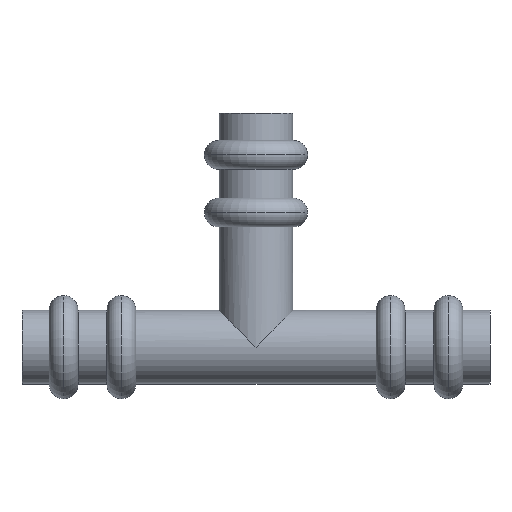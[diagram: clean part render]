
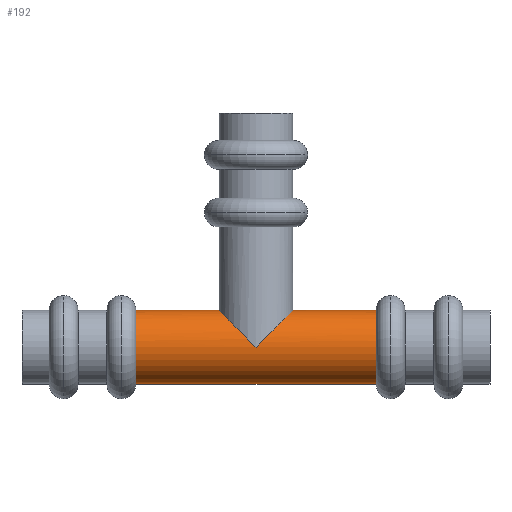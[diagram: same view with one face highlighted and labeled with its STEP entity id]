
A CAD part, front view. The second image highlights one B-rep face of the part: STEP entity #192.
In plain terms, the highlighted cylindrical face has radius 5.75 mm (diameter 11.5 mm), a partial arc.
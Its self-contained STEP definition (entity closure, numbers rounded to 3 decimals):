
#192=ADVANCED_FACE('',(#472),#473,.T.);
#472=FACE_OUTER_BOUND('',#864,.T.);
#473=CYLINDRICAL_SURFACE('',#865,5.75);
#864=EDGE_LOOP('',(#1370,#1371,#1372,#1373,#1374,#1375,#1376));
#865=AXIS2_PLACEMENT_3D('',#1377,#1378,#1379);
#1370=ORIENTED_EDGE('',*,*,#2243,.F.);
#1371=ORIENTED_EDGE('',*,*,#2244,.F.);
#1372=ORIENTED_EDGE('',*,*,#2245,.F.);
#1373=ORIENTED_EDGE('',*,*,#2246,.T.);
#1374=ORIENTED_EDGE('',*,*,#2247,.T.);
#1375=ORIENTED_EDGE('',*,*,#2248,.F.);
#1376=ORIENTED_EDGE('',*,*,#2249,.F.);
#1377=CARTESIAN_POINT('',(31.5,0.0,0.));
#1378=DIRECTION('',(-1.0,0.0,0.0));
#1379=DIRECTION('',(0.0,0.0,-1.0));
#2243=EDGE_CURVE('',#2657,#2658,#2659,.T.);
#2244=EDGE_CURVE('',#2660,#2657,#2661,.T.);
#2245=EDGE_CURVE('',#2662,#2660,#2663,.T.);
#2246=EDGE_CURVE('',#2662,#2664,#2665,.T.);
#2247=EDGE_CURVE('',#2664,#2666,#2667,.T.);
#2248=EDGE_CURVE('',#2668,#2666,#2669,.T.);
#2249=EDGE_CURVE('',#2658,#2668,#2670,.T.);
#2657=VERTEX_POINT('',#3175);
#2658=VERTEX_POINT('',#3176);
#2659=LINE('',#3177,#3178);
#2660=VERTEX_POINT('',#3179);
#2661=CIRCLE('',#3180,5.75);
#2662=VERTEX_POINT('',#3181);
#2663=LINE('',#3182,#3183);
#2664=VERTEX_POINT('',#3184);
#2665=ELLIPSE('',#3185,8.132,5.75);
#2666=VERTEX_POINT('',#3186);
#2667=ELLIPSE('',#3187,8.132,5.75);
#2668=VERTEX_POINT('',#3188);
#2669=LINE('',#3189,#3190);
#2670=CIRCLE('',#3191,5.75);
#3175=CARTESIAN_POINT('',(55.25,0.,-5.75));
#3176=CARTESIAN_POINT('',(17.75,0.,-5.75));
#3177=CARTESIAN_POINT('',(31.5,0.,-5.75));
#3178=VECTOR('',#3810,1.0);
#3179=CARTESIAN_POINT('',(55.25,0.,5.75));
#3180=AXIS2_PLACEMENT_3D('',#3811,#3812,#3813);
#3181=CARTESIAN_POINT('',(42.25,0.,5.75));
#3182=CARTESIAN_POINT('',(31.5,0.,5.75));
#3183=VECTOR('',#3814,1.0);
#3184=CARTESIAN_POINT('',(36.5,-5.75,0.0));
#3185=AXIS2_PLACEMENT_3D('',#3815,#3816,#3817);
#3186=CARTESIAN_POINT('',(30.75,0.,5.75));
#3187=AXIS2_PLACEMENT_3D('',#3818,#3819,#3820);
#3188=CARTESIAN_POINT('',(17.75,0.,5.75));
#3189=CARTESIAN_POINT('',(31.5,0.,5.75));
#3190=VECTOR('',#3821,1.0);
#3191=AXIS2_PLACEMENT_3D('',#3822,#3823,#3824);
#3810=DIRECTION('',(-1.0,0.0,0.0));
#3811=CARTESIAN_POINT('',(55.25,0.0,0.));
#3812=DIRECTION('',(1.0,0.0,-0.0));
#3813=DIRECTION('',(0.0,0.0,1.0));
#3814=DIRECTION('',(1.0,-0.0,-0.0));
#3815=CARTESIAN_POINT('',(36.5,0.0,0.));
#3816=DIRECTION('',(0.707,0.0,-0.707));
#3817=DIRECTION('',(0.707,0.0,0.707));
#3818=CARTESIAN_POINT('',(36.5,0.0,0.));
#3819=DIRECTION('',(-0.707,-0.0,-0.707));
#3820=DIRECTION('',(0.707,0.0,-0.707));
#3821=DIRECTION('',(1.0,-0.0,-0.0));
#3822=CARTESIAN_POINT('',(17.75,0.0,0.));
#3823=DIRECTION('',(-1.0,0.0,0.));
#3824=DIRECTION('',(0.,0.0,-1.0));
